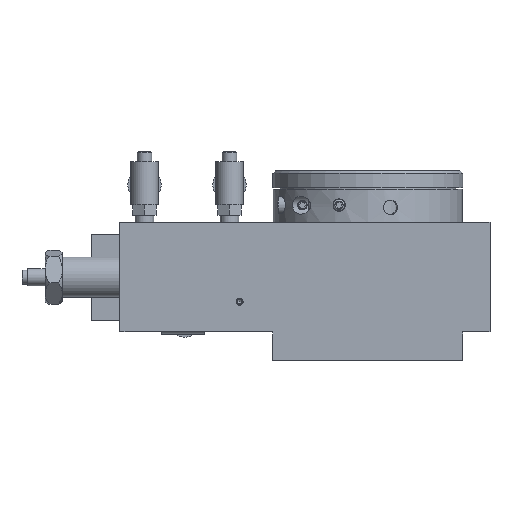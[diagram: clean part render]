
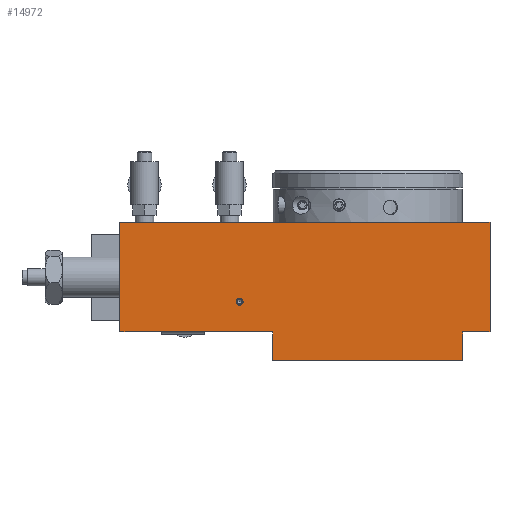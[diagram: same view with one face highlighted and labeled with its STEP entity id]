
A CAD part, front view. The second image highlights one B-rep face of the part: STEP entity #14972.
In plain terms, the highlighted planar face has unit normal (0, -1, 0).
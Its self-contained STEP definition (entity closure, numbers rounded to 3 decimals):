
#741=CARTESIAN_POINT('',(-10.27,-66.,10.5));
#742=VERTEX_POINT('',#741);
#743=CARTESIAN_POINT('',(-11.5,-66.,10.5));
#744=DIRECTION('',(0.0,1.0,0.0));
#745=DIRECTION('',(1.0,0.0,0.0));
#746=AXIS2_PLACEMENT_3D('',#743,#744,#745);
#747=CIRCLE('',#746,1.23);
#748=EDGE_CURVE('',#742,#742,#747,.T.);
#7356=CARTESIAN_POINT('',(75.4,-66.,0.));
#7357=VERTEX_POINT('',#7356);
#7364=CARTESIAN_POINT('',(66.,-66.,0.));
#7365=VERTEX_POINT('',#7364);
#7366=CARTESIAN_POINT('',(66.,-66.,0.));
#7367=DIRECTION('',(1.0,0.0,0.0));
#7368=VECTOR('',#7367,9.4);
#7369=LINE('',#7366,#7368);
#7370=EDGE_CURVE('',#7365,#7357,#7369,.T.);
#7402=CARTESIAN_POINT('',(75.4,-66.,38.));
#7403=VERTEX_POINT('',#7402);
#7410=CARTESIAN_POINT('',(75.4,-66.,0.));
#7411=DIRECTION('',(0.0,0.0,1.0));
#7412=VECTOR('',#7411,38.0);
#7413=LINE('',#7410,#7412);
#7414=EDGE_CURVE('',#7357,#7403,#7413,.T.);
#12195=CARTESIAN_POINT('',(-53.,-66.,38.));
#12196=VERTEX_POINT('',#12195);
#12197=CARTESIAN_POINT('',(-53.,-66.,0.));
#12198=VERTEX_POINT('',#12197);
#12199=CARTESIAN_POINT('',(-53.,-66.,38.));
#12200=DIRECTION('',(0.0,0.0,-1.0));
#12201=VECTOR('',#12200,38.0);
#12202=LINE('',#12199,#12201);
#12203=EDGE_CURVE('',#12196,#12198,#12202,.T.);
#13956=CARTESIAN_POINT('',(0.,-66.,0.));
#13957=VERTEX_POINT('',#13956);
#13964=CARTESIAN_POINT('',(0.,-66.,0.));
#13965=DIRECTION('',(-1.0,0.0,0.0));
#13966=VECTOR('',#13965,53.);
#13967=LINE('',#13964,#13966);
#13968=EDGE_CURVE('',#13957,#12198,#13967,.T.);
#13996=CARTESIAN_POINT('',(75.4,-66.0,38.0));
#13997=DIRECTION('',(-1.0,0.0,0.0));
#13998=VECTOR('',#13997,128.4);
#13999=LINE('',#13996,#13998);
#14000=EDGE_CURVE('',#7403,#12196,#13999,.T.);
#14871=CARTESIAN_POINT('',(0.,-66.,-10.));
#14872=VERTEX_POINT('',#14871);
#14879=CARTESIAN_POINT('',(0.,-66.,-10.));
#14880=DIRECTION('',(0.0,0.0,1.0));
#14881=VECTOR('',#14880,10.0);
#14882=LINE('',#14879,#14881);
#14883=EDGE_CURVE('',#14872,#13957,#14882,.T.);
#14931=CARTESIAN_POINT('',(66.0,-66.,-10.));
#14932=VERTEX_POINT('',#14931);
#14933=CARTESIAN_POINT('',(66.0,-66.,-10.));
#14934=DIRECTION('',(0.0,0.0,1.0));
#14935=VECTOR('',#14934,10.);
#14936=LINE('',#14933,#14935);
#14937=EDGE_CURVE('',#14932,#7365,#14936,.T.);
#14949=CARTESIAN_POINT('',(66.0,-66.,-10.));
#14950=DIRECTION('',(0.0,-1.0,0.0));
#14951=DIRECTION('',(0.0,0.0,-1.0));
#14952=AXIS2_PLACEMENT_3D('',#14949,#14950,#14951);
#14953=PLANE('',#14952);
#14954=ORIENTED_EDGE('',*,*,#14883,.F.);
#14955=CARTESIAN_POINT('',(0.,-66.,-10.));
#14956=DIRECTION('',(1.0,0.0,0.0));
#14957=VECTOR('',#14956,66.0);
#14958=LINE('',#14955,#14957);
#14959=EDGE_CURVE('',#14872,#14932,#14958,.T.);
#14960=ORIENTED_EDGE('',*,*,#14959,.T.);
#14961=ORIENTED_EDGE('',*,*,#14937,.T.);
#14962=ORIENTED_EDGE('',*,*,#7370,.T.);
#14963=ORIENTED_EDGE('',*,*,#7414,.T.);
#14964=ORIENTED_EDGE('',*,*,#14000,.T.);
#14965=ORIENTED_EDGE('',*,*,#12203,.T.);
#14966=ORIENTED_EDGE('',*,*,#13968,.F.);
#14967=EDGE_LOOP('',(#14954,#14960,#14961,#14962,#14963,#14964,#14965,#14966));
#14968=FACE_OUTER_BOUND('',#14967,.T.);
#14969=ORIENTED_EDGE('',*,*,#748,.T.);
#14970=EDGE_LOOP('',(#14969));
#14971=FACE_BOUND('',#14970,.T.);
#14972=ADVANCED_FACE('',(#14968,#14971),#14953,.T.);
